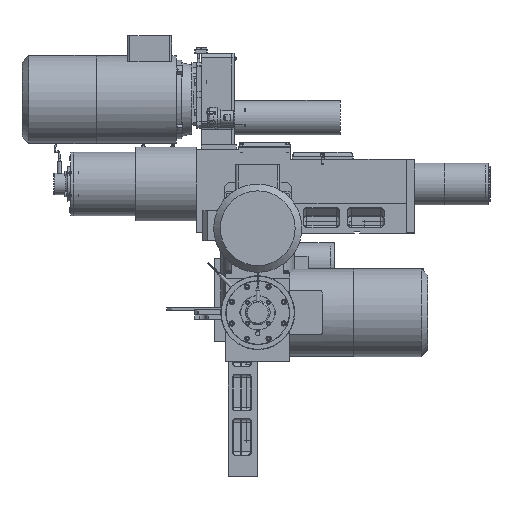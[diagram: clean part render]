
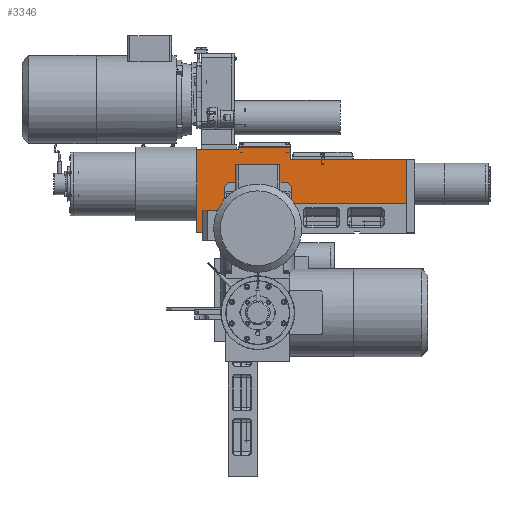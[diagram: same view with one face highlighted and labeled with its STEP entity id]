
A CAD part, front view. The second image highlights one B-rep face of the part: STEP entity #3346.
In plain terms, the highlighted planar face has unit normal (0, -1, 0).
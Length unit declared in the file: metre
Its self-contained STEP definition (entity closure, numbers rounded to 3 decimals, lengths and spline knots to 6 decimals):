
#3346 = ADVANCED_FACE( '', ( #5169 ), #5170, .T. );
#5169 = FACE_OUTER_BOUND( '', #9879, .T. );
#5170 = PLANE( '', #9880 );
#9879 = EDGE_LOOP( '', ( #16452, #16453, #16454, #16455, #16456, #16457, #16458, #16459, #16460, #16461 ) );
#9880 = AXIS2_PLACEMENT_3D( '', #16462, #16463, #16464 );
#16452 = ORIENTED_EDGE( '', *, *, #21949, .T. );
#16453 = ORIENTED_EDGE( '', *, *, #21950, .T. );
#16454 = ORIENTED_EDGE( '', *, *, #21951, .F. );
#16455 = ORIENTED_EDGE( '', *, *, #21952, .T. );
#16456 = ORIENTED_EDGE( '', *, *, #21953, .T. );
#16457 = ORIENTED_EDGE( '', *, *, #21954, .T. );
#16458 = ORIENTED_EDGE( '', *, *, #21955, .T. );
#16459 = ORIENTED_EDGE( '', *, *, #21956, .T. );
#16460 = ORIENTED_EDGE( '', *, *, #21957, .T. );
#16461 = ORIENTED_EDGE( '', *, *, #21958, .T. );
#16462 = CARTESIAN_POINT( '', ( 0.337, -0.003889, 0. ) );
#16463 = DIRECTION( '', ( 0., -1., 0. ) );
#16464 = DIRECTION( '', ( 1., 0., 0. ) );
#21949 = EDGE_CURVE( '', #24975, #24976, #24977, .T. );
#21950 = EDGE_CURVE( '', #24976, #24978, #24979, .T. );
#21951 = EDGE_CURVE( '', #24980, #24978, #24981, .T. );
#21952 = EDGE_CURVE( '', #24980, #24982, #24983, .T. );
#21953 = EDGE_CURVE( '', #24982, #24984, #24985, .T. );
#21954 = EDGE_CURVE( '', #24984, #24986, #24987, .T. );
#21955 = EDGE_CURVE( '', #24986, #24988, #24989, .T. );
#21956 = EDGE_CURVE( '', #24988, #24990, #24991, .T. );
#21957 = EDGE_CURVE( '', #24990, #24992, #24993, .T. );
#21958 = EDGE_CURVE( '', #24992, #24975, #24994, .T. );
#24975 = VERTEX_POINT( '', #31012 );
#24976 = VERTEX_POINT( '', #31013 );
#24977 = LINE( '', #31014, #31015 );
#24978 = VERTEX_POINT( '', #31016 );
#24979 = LINE( '', #31017, #31018 );
#24980 = VERTEX_POINT( '', #31019 );
#24981 = LINE( '', #31020, #31021 );
#24982 = VERTEX_POINT( '', #31022 );
#24983 = LINE( '', #31023, #31024 );
#24984 = VERTEX_POINT( '', #31025 );
#24985 = LINE( '', #31026, #31027 );
#24986 = VERTEX_POINT( '', #31028 );
#24987 = LINE( '', #31029, #31030 );
#24988 = VERTEX_POINT( '', #31031 );
#24989 = LINE( '', #31032, #31033 );
#24990 = VERTEX_POINT( '', #31034 );
#24991 = LINE( '', #31035, #31036 );
#24992 = VERTEX_POINT( '', #31037 );
#24993 = LINE( '', #31038, #31039 );
#24994 = LINE( '', #31040, #31041 );
#31012 = CARTESIAN_POINT( '', ( -0.003, -0.003889, 0.11 ) );
#31013 = CARTESIAN_POINT( '', ( -0.088, -0.003889, 0.11 ) );
#31014 = CARTESIAN_POINT( '', ( 0.14575, -0.003889, 0.11 ) );
#31015 = VECTOR( '', #36350, 1. );
#31016 = CARTESIAN_POINT( '', ( -0.088, -0.003889, -0.059 ) );
#31017 = CARTESIAN_POINT( '', ( -0.088, -0.003889, -0.059 ) );
#31018 = VECTOR( '', #36351, 1. );
#31019 = CARTESIAN_POINT( '', ( -0.005, -0.003889, -0.059 ) );
#31020 = CARTESIAN_POINT( '', ( -0.005, -0.003889, -0.059 ) );
#31021 = VECTOR( '', #36352, 1. );
#31022 = CARTESIAN_POINT( '', ( -0.005, -0.003889, 0. ) );
#31023 = CARTESIAN_POINT( '', ( -0.005, -0.003889, -0.059 ) );
#31024 = VECTOR( '', #36353, 1. );
#31025 = CARTESIAN_POINT( '', ( 0.337, -0.003889, 0. ) );
#31026 = CARTESIAN_POINT( '', ( -0.005, -0.003889, 0. ) );
#31027 = VECTOR( '', #36354, 1. );
#31028 = CARTESIAN_POINT( '', ( 0.337, -0.003889, 0.09 ) );
#31029 = CARTESIAN_POINT( '', ( 0.337, -0.003889, 0. ) );
#31030 = VECTOR( '', #36355, 1. );
#31031 = CARTESIAN_POINT( '', ( 0.102, -0.003889, 0.09 ) );
#31032 = CARTESIAN_POINT( '', ( -0.005, -0.003889, 0.09 ) );
#31033 = VECTOR( '', #36356, 1. );
#31034 = CARTESIAN_POINT( '', ( 0.102, -0.003889, 0.115 ) );
#31035 = CARTESIAN_POINT( '', ( 0.102, -0.003889, 0.09 ) );
#31036 = VECTOR( '', #36357, 1. );
#31037 = CARTESIAN_POINT( '', ( -0.003, -0.003889, 0.115 ) );
#31038 = CARTESIAN_POINT( '', ( -0.005, -0.003889, 0.115 ) );
#31039 = VECTOR( '', #36358, 1. );
#31040 = CARTESIAN_POINT( '', ( -0.003, -0.003889, 0.058735 ) );
#31041 = VECTOR( '', #36359, 1. );
#36350 = DIRECTION( '', ( -1., 0., 0. ) );
#36351 = DIRECTION( '', ( 0., 0., -1. ) );
#36352 = DIRECTION( '', ( -1., 0., 0. ) );
#36353 = DIRECTION( '', ( 0., 0., 1. ) );
#36354 = DIRECTION( '', ( 1., 0., 0. ) );
#36355 = DIRECTION( '', ( 0., 0., 1. ) );
#36356 = DIRECTION( '', ( -1., 0., 0. ) );
#36357 = DIRECTION( '', ( 0., 0., 1. ) );
#36358 = DIRECTION( '', ( -1., 0., 0. ) );
#36359 = DIRECTION( '', ( 0., 0., -1. ) );
